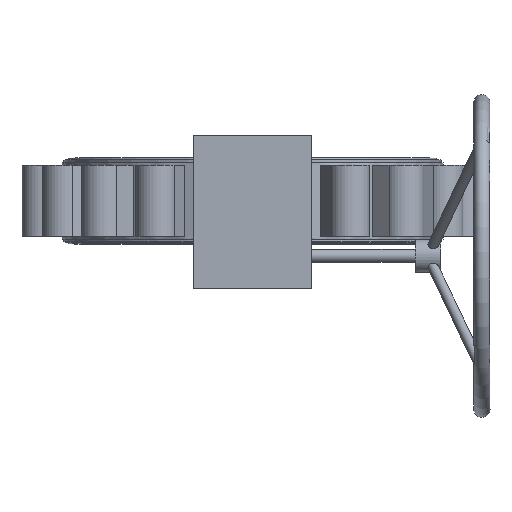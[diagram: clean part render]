
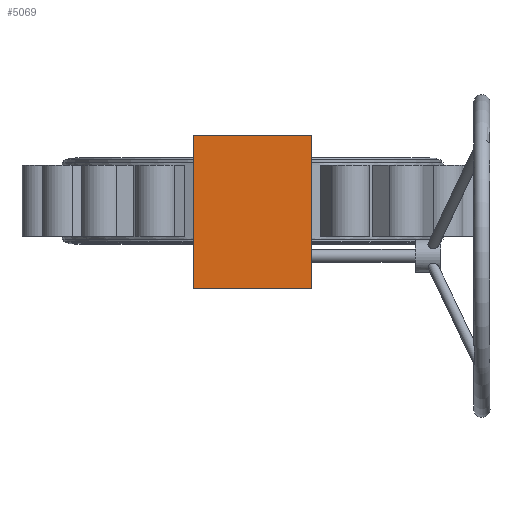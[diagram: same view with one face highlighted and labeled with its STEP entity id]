
A CAD part, top view. The second image highlights one B-rep face of the part: STEP entity #5069.
In plain terms, the highlighted planar face has unit normal (0, 0, 1) as drawn and (0, 1, 0) by its records, which use the part's own axes.
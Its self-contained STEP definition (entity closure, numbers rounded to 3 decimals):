
#105 = CARTESIAN_POINT ( 'NONE',  ( 91.394, 103.14, 101.095 ) ) ;
#106 = CARTESIAN_POINT ( 'NONE',  ( -91.394, 103.14, 101.095 ) ) ;
#247 = EDGE_LOOP ( 'NONE', ( #2367, #2542, #2915, #6938 ) ) ;
#374 = CARTESIAN_POINT ( 'NONE',  ( -91.394, 103.14, -137.072 ) ) ;
#495 = LINE ( 'NONE', #4551, #6213 ) ;
#582 = LINE ( 'NONE', #106, #2484 ) ;
#627 = LINE ( 'NONE', #4218, #6333 ) ;
#1658 = DIRECTION ( 'NONE',  ( -1., 0., 0. ) ) ;
#1852 = DIRECTION ( 'NONE',  ( 0., 1., 0. ) ) ;
#2165 = EDGE_CURVE ( 'NONE', #5357, #3900, #627, .T. ) ;
#2367 = ORIENTED_EDGE ( 'NONE', *, *, #6897, .T. ) ;
#2484 = VECTOR ( 'NONE', #6339, 1000. ) ;
#2542 = ORIENTED_EDGE ( 'NONE', *, *, #3885, .T. ) ;
#2915 = ORIENTED_EDGE ( 'NONE', *, *, #5440, .T. ) ;
#3056 = DIRECTION ( 'NONE',  ( -1., 0., 0. ) ) ;
#3099 = CARTESIAN_POINT ( 'NONE',  ( 91.394, 103.14, 101.095 ) ) ;
#3834 = VECTOR ( 'NONE', #5727, 1000. ) ;
#3885 = EDGE_CURVE ( 'NONE', #6244, #6873, #4534, .T. ) ;
#3900 = VERTEX_POINT ( 'NONE', #4612 ) ;
#4218 = CARTESIAN_POINT ( 'NONE',  ( -91.394, 103.14, 101.095 ) ) ;
#4534 = LINE ( 'NONE', #105, #3834 ) ;
#4551 = CARTESIAN_POINT ( 'NONE',  ( -91.394, 103.14, -137.072 ) ) ;
#4612 = CARTESIAN_POINT ( 'NONE',  ( -91.394, 103.14, 101.095 ) ) ;
#4907 = FACE_OUTER_BOUND ( 'NONE', #247, .T. ) ;
#5069 = ADVANCED_FACE ( 'NONE', ( #4907 ), #6478, .T. ) ;
#5317 = CARTESIAN_POINT ( 'NONE',  ( 0., 103.14, 0. ) ) ;
#5357 = VERTEX_POINT ( 'NONE', #374 ) ;
#5440 = EDGE_CURVE ( 'NONE', #6873, #5357, #495, .T. ) ;
#5727 = DIRECTION ( 'NONE',  ( 0., 0., -1. ) ) ;
#6213 = VECTOR ( 'NONE', #1658, 1000. ) ;
#6244 = VERTEX_POINT ( 'NONE', #3099 ) ;
#6333 = VECTOR ( 'NONE', #7020, 1000. ) ;
#6339 = DIRECTION ( 'NONE',  ( 1., 0., 0. ) ) ;
#6478 = PLANE ( 'NONE',  #6675 ) ;
#6675 = AXIS2_PLACEMENT_3D ( 'NONE', #5317, #1852, #3056 ) ;
#6791 = CARTESIAN_POINT ( 'NONE',  ( 91.394, 103.14, -137.072 ) ) ;
#6873 = VERTEX_POINT ( 'NONE', #6791 ) ;
#6897 = EDGE_CURVE ( 'NONE', #3900, #6244, #582, .T. ) ;
#6938 = ORIENTED_EDGE ( 'NONE', *, *, #2165, .T. ) ;
#7020 = DIRECTION ( 'NONE',  ( 0., 0., 1. ) ) ;
